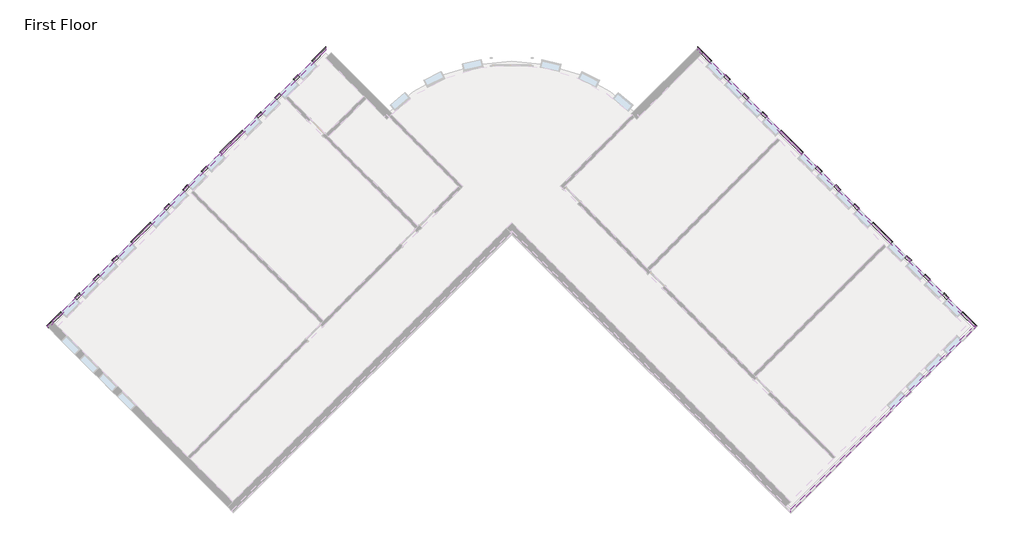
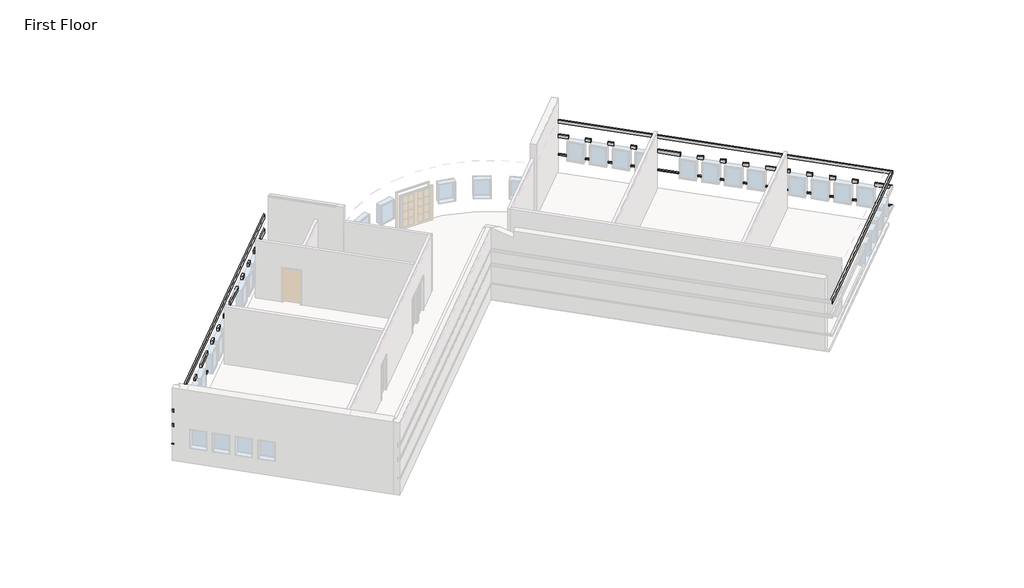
# One storey, part 3 of 3: 7 proxies.
"""IFC4 building model written with IfcOpenShell, lengths in millimetres."""

from ifc_helpers import new_model, si_unit, origin, place, context, project, spatial, faceted_brep, element, save

model = new_model("IFC4")

# Units and contexts
model_context = context("Model", 3, world=origin())
ifc_project = project(units=[si_unit("LENGTHUNIT", "METRE", prefix="MILLI")], contexts=[model_context])

# Site, building, storey
site = spatial("IfcSite", under=ifc_project)
building = spatial("IfcBuilding", under=site)
storey = spatial("IfcBuildingStorey", under=building, Name="First Floor", Elevation=0.0)

# Proxies
placement = place(None, origin())
element("IfcBuildingElementProxy", 1, Name="Wall Sweeps", at=placement, inside=storey, context=model_context, shape_type="Brep", body=[
    faceted_brep([(5753.0175119, 11443.3655905, 1085.85), (5753.0175119, 11573.5793042, 1085.85), (5753.0175119, 11622.9707129, 1041.4), (5753.0175119, 11622.9707129, 1016.0), (5753.0175119, 11443.3655905, 1016.0), (6317.415551, 10878.9675514, 1085.85), (6317.415551, 10878.9675514, 1016.0), (6382.5224079, 10944.0744083, 1016.0), (6407.2181122, 10968.7701126, 1016.0), (6407.2181122, 10968.7701126, 1041.4), (6382.5224079, 10944.0744083, 1085.85), (5937.1127624, 11259.27034, 1085.85), (5937.1127624, 11259.27034, 1016.0)], [[[0, 1, 2, 3, 4]], [[5, 6, 7, 8, 9, 10]], [[1, 0, 11, 5, 10]], [[2, 1, 10, 9]], [[3, 2, 9, 8]], [[4, 3, 8, 7, 6, 12]], [[0, 4, 12, 6, 5, 11]]]),
    faceted_brep([(6963.9939917, 10232.3891107, 1085.85), (7029.1008486, 10297.4959676, 1085.85), (7053.7965529, 10322.1916719, 1041.4), (7053.7965529, 10322.1916719, 1016.0), (7029.1008486, 10297.4959676, 1016.0), (6963.9939917, 10232.3891107, 1016.0), (7179.5201386, 10016.8629638, 1085.85), (7179.5201386, 10016.8629638, 1016.0), (7244.6269955, 10081.9698207, 1016.0), (7269.3226998, 10106.665525, 1016.0), (7269.3226998, 10106.665525, 1041.4), (7244.6269955, 10081.9698207, 1085.85)], [[[0, 1, 2, 3, 4, 5]], [[6, 7, 8, 9, 10, 11]], [[1, 0, 6, 11]], [[2, 1, 11, 10]], [[3, 2, 10, 9]], [[5, 4, 3, 9, 8, 7]], [[0, 5, 7, 6]]]),
    faceted_brep([(7826.0985793, 9370.2845231, 1085.85), (7891.2054362, 9435.39138, 1085.85), (7915.9011405, 9460.0870843, 1041.4), (7915.9011405, 9460.0870843, 1016.0), (7891.2054362, 9435.39138, 1016.0), (7826.0985793, 9370.2845231, 1016.0), (8041.6247262, 9154.7583762, 1085.85), (8041.6247262, 9154.7583762, 1016.0), (8106.7315831, 9219.8652331, 1016.0), (8131.4272874, 9244.5609374, 1016.0), (8131.4272874, 9244.5609374, 1041.4), (8106.7315831, 9219.8652331, 1085.85)], [[[0, 1, 2, 3, 4, 5]], [[6, 7, 8, 9, 10, 11]], [[1, 0, 6, 11]], [[2, 1, 11, 10]], [[3, 2, 10, 9]], [[5, 4, 3, 9, 8, 7]], [[0, 5, 7, 6]]]),
    faceted_brep([(8688.2031669, 8508.1799355, 1085.85), (8753.3100238, 8573.2867923, 1085.85), (8778.0057282, 8597.9824967, 1041.4), (8778.0057282, 8597.9824967, 1016.0), (8753.3100238, 8573.2867923, 1016.0), (8688.2031669, 8508.1799355, 1016.0), (8903.7293139, 8292.6537886, 1085.85), (8903.7293139, 8292.6537886, 1016.0), (8968.8361707, 8357.7606454, 1016.0), (8993.5318751, 8382.4563498, 1016.0), (8993.5318751, 8382.4563498, 1041.4), (8968.8361707, 8357.7606454, 1085.85)], [[[0, 1, 2, 3, 4, 5]], [[6, 7, 8, 9, 10, 11]], [[1, 0, 6, 11]], [[2, 1, 11, 10]], [[3, 2, 10, 9]], [[5, 4, 3, 9, 8, 7]], [[0, 5, 7, 6]]]),
    faceted_brep([(9550.3077546, 7646.0753478, 1085.85), (9615.4146114, 7711.1822047, 1085.85), (9640.1103158, 7735.877909, 1041.4), (9640.1103158, 7735.877909, 1016.0), (9615.4146114, 7711.1822047, 1016.0), (9550.3077546, 7646.0753478, 1016.0), (10574.7639411, 6621.6191613, 1085.85), (10574.7639411, 6621.6191613, 1016.0), (10639.870798, 6686.7260182, 1016.0), (10664.5665023, 6711.4217225, 1016.0), (10664.5665023, 6711.4217225, 1041.4), (10639.870798, 6686.7260182, 1085.85)], [[[0, 1, 2, 3, 4, 5]], [[6, 7, 8, 9, 10, 11]], [[1, 0, 6, 11]], [[2, 1, 11, 10]], [[3, 2, 10, 9]], [[5, 4, 3, 9, 8, 7]], [[0, 5, 7, 6]]]),
    faceted_brep([(11221.3423818, 5975.0407206, 1085.85), (11286.4492387, 6040.1475775, 1085.85), (11311.144943, 6064.8432818, 1041.4), (11311.144943, 6064.8432818, 1016.0), (11286.4492387, 6040.1475775, 1016.0), (11221.3423818, 5975.0407206, 1016.0), (11436.8685287, 5759.5145737, 1085.85), (11436.8685287, 5759.5145737, 1016.0), (11501.9753856, 5824.6214306, 1016.0), (11526.6710899, 5849.3171349, 1016.0), (11526.6710899, 5849.3171349, 1041.4), (11501.9753856, 5824.6214306, 1085.85)], [[[0, 1, 2, 3, 4, 5]], [[6, 7, 8, 9, 10, 11]], [[1, 0, 6, 11]], [[2, 1, 11, 10]], [[3, 2, 10, 9]], [[5, 4, 3, 9, 8, 7]], [[0, 5, 7, 6]]]),
    faceted_brep([(12083.4469694, 5112.936133, 1085.85), (12148.5538263, 5178.0429899, 1085.85), (12173.2495306, 5202.7386942, 1041.4), (12173.2495306, 5202.7386942, 1016.0), (12148.5538263, 5178.0429899, 1016.0), (12083.4469694, 5112.936133, 1016.0), (12298.9731163, 4897.4099861, 1085.85), (12298.9731163, 4897.4099861, 1016.0), (12364.0799732, 4962.516843, 1016.0), (12388.7756775, 4987.2125473, 1016.0), (12388.7756775, 4987.2125473, 1041.4), (12364.0799732, 4962.516843, 1085.85)], [[[0, 1, 2, 3, 4, 5]], [[6, 7, 8, 9, 10, 11]], [[1, 0, 6, 11]], [[2, 1, 11, 10]], [[3, 2, 10, 9]], [[5, 4, 3, 9, 8, 7]], [[0, 5, 7, 6]]]),
    faceted_brep([(12945.551557, 4250.8315454, 1085.85), (13010.6584139, 4315.9384023, 1085.85), (13035.3541182, 4340.6341066, 1041.4), (13035.3541182, 4340.6341066, 1016.0), (13010.6584139, 4315.9384023, 1016.0), (12945.551557, 4250.8315454, 1016.0), (13161.0777039, 4035.3053985, 1085.85), (13161.0777039, 4035.3053985, 1016.0), (13226.1845608, 4100.4122553, 1016.0), (13250.8802652, 4125.1079597, 1016.0), (13250.8802652, 4125.1079597, 1041.4), (13226.1845608, 4100.4122553, 1085.85)], [[[0, 1, 2, 3, 4, 5]], [[6, 7, 8, 9, 10, 11]], [[1, 0, 6, 11]], [[2, 1, 11, 10]], [[3, 2, 10, 9]], [[5, 4, 3, 9, 8, 7]], [[0, 5, 7, 6]]]),
    faceted_brep([(13807.6561447, 3388.7269578, 1085.85), (13872.7630015, 3453.8338146, 1085.85), (13897.4587059, 3478.529519, 1041.4), (13897.4587059, 3478.529519, 1016.0), (13872.7630015, 3453.8338146, 1016.0), (13807.6561447, 3388.7269578, 1016.0), (14723.1708449, 2473.2122576, 1085.85), (14723.1708449, 2473.2122576, 1016.0), (14788.2777017, 2538.3191144, 1016.0), (14812.9734061, 2563.0148188, 1016.0), (14812.9734061, 2563.0148188, 1041.4), (14788.2777017, 2538.3191144, 1085.85)], [[[0, 1, 2, 3, 4, 5]], [[6, 7, 8, 9, 10, 11]], [[1, 0, 6, 11]], [[2, 1, 11, 10]], [[3, 2, 10, 9]], [[5, 4, 3, 9, 8, 7]], [[0, 5, 7, 6]]]),
    faceted_brep([(15369.7492856, 1826.6338168, 1085.85), (15434.8561424, 1891.7406737, 1085.85), (15459.5518468, 1916.4363781, 1041.4), (15459.5518468, 1916.4363781, 1016.0), (15434.8561424, 1891.7406737, 1016.0), (15369.7492856, 1826.6338168, 1016.0), (15585.2754325, 1611.1076699, 1085.85), (15585.2754325, 1611.1076699, 1016.0), (15650.3822894, 1676.2145268, 1016.0), (15675.0779937, 1700.9102311, 1016.0), (15675.0779937, 1700.9102311, 1041.4), (15650.3822894, 1676.2145268, 1085.85)], [[[0, 1, 2, 3, 4, 5]], [[6, 7, 8, 9, 10, 11]], [[1, 0, 6, 11]], [[2, 1, 11, 10]], [[3, 2, 10, 9]], [[5, 4, 3, 9, 8, 7]], [[0, 5, 7, 6]]]),
    faceted_brep([(16231.8538732, 964.5292292, 1085.85), (16296.9607301, 1029.6360861, 1085.85), (16321.6564344, 1054.3317904, 1041.4), (16321.6564344, 1054.3317904, 1016.0), (16296.9607301, 1029.6360861, 1016.0), (16231.8538732, 964.5292292, 1016.0), (16447.3800201, 749.0030823, 1085.85), (16447.3800201, 749.0030823, 1016.0), (16512.486877, 814.1099392, 1016.0), (16537.1825813, 838.8056435, 1016.0), (16537.1825813, 838.8056435, 1041.4), (16512.486877, 814.1099392, 1085.85)], [[[0, 1, 2, 3, 4, 5]], [[6, 7, 8, 9, 10, 11]], [[1, 0, 6, 11]], [[2, 1, 11, 10]], [[3, 2, 10, 9]], [[5, 4, 3, 9, 8, 7]], [[0, 5, 7, 6]]]),
    faceted_brep([(17093.9584608, 102.4246416, 1085.85), (17159.0653177, 167.5314985, 1085.85), (17183.761022, 192.2272028, 1041.4), (17183.761022, 192.2272028, 1016.0), (17159.0653177, 167.5314985, 1016.0), (17093.9584608, 102.4246416, 1016.0), (17309.4846077, -113.1015053, 1085.85), (17309.4846077, -113.1015053, 1016.0), (17374.5914646, -47.9946484, 1016.0), (17399.2871689, -23.2989441, 1016.0), (17399.2871689, -23.2989441, 1041.4), (17374.5914646, -47.9946484, 1085.85)], [[[0, 1, 2, 3, 4, 5]], [[6, 7, 8, 9, 10, 11]], [[1, 0, 6, 11]], [[2, 1, 11, 10]], [[3, 2, 10, 9]], [[5, 4, 3, 9, 8, 7]], [[0, 5, 7, 6]]]),
    faceted_brep([(17956.0630484, -759.679946, 1085.85), (18021.1699053, -694.5730891, 1085.85), (18045.8656096, -669.8773848, 1041.4), (18045.8656096, -669.8773848, 1016.0), (18021.1699053, -694.5730891, 1016.0), (17956.0630484, -759.679946, 1016.0), (18554.3726125, -1357.9895101, 1085.85), (18554.3726125, -1357.9895101, 1016.0), (18733.9777349, -1357.9895101, 1016.0), (18733.9777349, -1357.9895101, 1041.4), (18684.5863263, -1357.9895101, 1085.85)], [[[0, 1, 2, 3, 4, 5]], [[6, 7, 8, 9, 10]], [[1, 0, 6, 10]], [[2, 1, 10, 9]], [[3, 2, 9, 8]], [[5, 4, 3, 8, 7]], [[0, 5, 7, 6]]]),
])
element("IfcBuildingElementProxy", 2, Name="Wall Sweeps", at=placement, inside=storey, context=model_context, shape_type="Brep", body=[
    faceted_brep([(5753.0175119, 11573.5793042, 2336.8), (5753.0175119, 11573.5793042, 2133.6), (5753.0175119, 11443.3655905, 2133.6), (5753.0175119, 11443.3655905, 2336.8), (6382.5224079, 10944.0744083, 2336.8), (6317.415551, 10878.9675514, 2336.8), (6317.415551, 10878.9675514, 2133.6), (6382.5224079, 10944.0744083, 2133.6), (6002.2196193, 11324.3771969, 2336.8), (6002.2196193, 11324.3771969, 2133.6), (5937.1127624, 11259.27034, 2133.6), (5937.1127624, 11259.27034, 2336.8)], [[[0, 1, 2, 3]], [[4, 5, 6, 7]], [[1, 0, 8, 4, 7, 9]], [[2, 1, 9, 7, 6, 10]], [[3, 2, 10, 6, 5, 11]], [[0, 3, 11, 5, 4, 8]]]),
    faceted_brep([(7029.1008486, 10297.4959676, 2336.8), (7029.1008486, 10297.4959676, 2133.6), (6963.9939917, 10232.3891107, 2133.6), (6963.9939917, 10232.3891107, 2336.8), (7244.6269955, 10081.9698207, 2336.8), (7179.5201386, 10016.8629638, 2336.8), (7179.5201386, 10016.8629638, 2133.6), (7244.6269955, 10081.9698207, 2133.6)], [[[0, 1, 2, 3]], [[4, 5, 6, 7]], [[1, 0, 4, 7]], [[2, 1, 7, 6]], [[3, 2, 6, 5]], [[0, 3, 5, 4]]]),
    faceted_brep([(7891.2054362, 9435.39138, 2336.8), (7891.2054362, 9435.39138, 2133.6), (7826.0985793, 9370.2845231, 2133.6), (7826.0985793, 9370.2845231, 2336.8), (8106.7315831, 9219.8652331, 2336.8), (8041.6247262, 9154.7583762, 2336.8), (8041.6247262, 9154.7583762, 2133.6), (8106.7315831, 9219.8652331, 2133.6)], [[[0, 1, 2, 3]], [[4, 5, 6, 7]], [[1, 0, 4, 7]], [[2, 1, 7, 6]], [[3, 2, 6, 5]], [[0, 3, 5, 4]]]),
    faceted_brep([(8753.3100238, 8573.2867923, 2336.8), (8753.3100238, 8573.2867923, 2133.6), (8688.2031669, 8508.1799355, 2133.6), (8688.2031669, 8508.1799355, 2336.8), (8968.8361707, 8357.7606454, 2336.8), (8903.7293139, 8292.6537886, 2336.8), (8903.7293139, 8292.6537886, 2133.6), (8968.8361707, 8357.7606454, 2133.6)], [[[0, 1, 2, 3]], [[4, 5, 6, 7]], [[1, 0, 4, 7]], [[2, 1, 7, 6]], [[3, 2, 6, 5]], [[0, 3, 5, 4]]]),
    faceted_brep([(9615.4146114, 7711.1822047, 2336.8), (9615.4146114, 7711.1822047, 2133.6), (9550.3077546, 7646.0753478, 2133.6), (9550.3077546, 7646.0753478, 2336.8), (10639.870798, 6686.7260182, 2336.8), (10574.7639411, 6621.6191613, 2336.8), (10574.7639411, 6621.6191613, 2133.6), (10639.870798, 6686.7260182, 2133.6)], [[[0, 1, 2, 3]], [[4, 5, 6, 7]], [[1, 0, 4, 7]], [[2, 1, 7, 6]], [[3, 2, 6, 5]], [[0, 3, 5, 4]]]),
    faceted_brep([(11286.4492387, 6040.1475775, 2336.8), (11286.4492387, 6040.1475775, 2133.6), (11221.3423818, 5975.0407206, 2133.6), (11221.3423818, 5975.0407206, 2336.8), (11501.9753856, 5824.6214306, 2336.8), (11436.8685287, 5759.5145737, 2336.8), (11436.8685287, 5759.5145737, 2133.6), (11501.9753856, 5824.6214306, 2133.6)], [[[0, 1, 2, 3]], [[4, 5, 6, 7]], [[1, 0, 4, 7]], [[2, 1, 7, 6]], [[3, 2, 6, 5]], [[0, 3, 5, 4]]]),
    faceted_brep([(12148.5538263, 5178.0429899, 2336.8), (12148.5538263, 5178.0429899, 2133.6), (12083.4469694, 5112.936133, 2133.6), (12083.4469694, 5112.936133, 2336.8), (12364.0799732, 4962.516843, 2336.8), (12298.9731163, 4897.4099861, 2336.8), (12298.9731163, 4897.4099861, 2133.6), (12364.0799732, 4962.516843, 2133.6)], [[[0, 1, 2, 3]], [[4, 5, 6, 7]], [[1, 0, 4, 7]], [[2, 1, 7, 6]], [[3, 2, 6, 5]], [[0, 3, 5, 4]]]),
    faceted_brep([(13010.6584139, 4315.9384023, 2336.8), (13010.6584139, 4315.9384023, 2133.6), (12945.551557, 4250.8315454, 2133.6), (12945.551557, 4250.8315454, 2336.8), (13226.1845608, 4100.4122553, 2336.8), (13161.0777039, 4035.3053985, 2336.8), (13161.0777039, 4035.3053985, 2133.6), (13226.1845608, 4100.4122553, 2133.6)], [[[0, 1, 2, 3]], [[4, 5, 6, 7]], [[1, 0, 4, 7]], [[2, 1, 7, 6]], [[3, 2, 6, 5]], [[0, 3, 5, 4]]]),
    faceted_brep([(13872.7630015, 3453.8338146, 2336.8), (13872.7630015, 3453.8338146, 2133.6), (13807.6561447, 3388.7269578, 2133.6), (13807.6561447, 3388.7269578, 2336.8), (14788.2777017, 2538.3191144, 2336.8), (14723.1708449, 2473.2122576, 2336.8), (14723.1708449, 2473.2122576, 2133.6), (14788.2777017, 2538.3191144, 2133.6)], [[[0, 1, 2, 3]], [[4, 5, 6, 7]], [[1, 0, 4, 7]], [[2, 1, 7, 6]], [[3, 2, 6, 5]], [[0, 3, 5, 4]]]),
    faceted_brep([(15434.8561424, 1891.7406737, 2336.8), (15434.8561424, 1891.7406737, 2133.6), (15369.7492856, 1826.6338168, 2133.6), (15369.7492856, 1826.6338168, 2336.8), (15650.3822894, 1676.2145268, 2336.8), (15585.2754325, 1611.1076699, 2336.8), (15585.2754325, 1611.1076699, 2133.6), (15650.3822894, 1676.2145268, 2133.6)], [[[0, 1, 2, 3]], [[4, 5, 6, 7]], [[1, 0, 4, 7]], [[2, 1, 7, 6]], [[3, 2, 6, 5]], [[0, 3, 5, 4]]]),
    faceted_brep([(16296.9607301, 1029.6360861, 2336.8), (16296.9607301, 1029.6360861, 2133.6), (16231.8538732, 964.5292292, 2133.6), (16231.8538732, 964.5292292, 2336.8), (16512.486877, 814.1099392, 2336.8), (16447.3800201, 749.0030823, 2336.8), (16447.3800201, 749.0030823, 2133.6), (16512.486877, 814.1099392, 2133.6)], [[[0, 1, 2, 3]], [[4, 5, 6, 7]], [[1, 0, 4, 7]], [[2, 1, 7, 6]], [[3, 2, 6, 5]], [[0, 3, 5, 4]]]),
    faceted_brep([(17159.0653177, 167.5314985, 2336.8), (17159.0653177, 167.5314985, 2133.6), (17093.9584608, 102.4246416, 2133.6), (17093.9584608, 102.4246416, 2336.8), (17374.5914646, -47.9946484, 2336.8), (17309.4846077, -113.1015053, 2336.8), (17309.4846077, -113.1015053, 2133.6), (17374.5914646, -47.9946484, 2133.6)], [[[0, 1, 2, 3]], [[4, 5, 6, 7]], [[1, 0, 4, 7]], [[2, 1, 7, 6]], [[3, 2, 6, 5]], [[0, 3, 5, 4]]]),
    faceted_brep([(18021.1699053, -694.5730891, 2336.8), (18021.1699053, -694.5730891, 2133.6), (17956.0630484, -759.679946, 2133.6), (17956.0630484, -759.679946, 2336.8), (18684.5863263, -1357.9895101, 2336.8), (18554.3726125, -1357.9895101, 2336.8), (18554.3726125, -1357.9895101, 2133.6), (18684.5863263, -1357.9895101, 2133.6)], [[[0, 1, 2, 3]], [[4, 5, 6, 7]], [[1, 0, 4, 7]], [[2, 1, 7, 6]], [[3, 2, 6, 5]], [[0, 3, 5, 4]]]),
])
element("IfcBuildingElementProxy", 3, Name="Wall Sweeps", at=placement, inside=storey, context=model_context, shape_type="Brep", body=[
    faceted_brep([(5753.0175119, 11573.5793042, 3251.2), (5753.0175119, 11573.5793042, 3048.0), (5753.0175119, 11443.3655905, 3048.0), (5753.0175119, 11443.3655905, 3251.2), (18684.5863263, -1357.9895101, 3251.2), (18554.3726125, -1357.9895101, 3251.2), (18554.3726125, -1357.9895101, 3048.0), (18684.5863263, -1357.9895101, 3048.0), (6002.2196193, 11324.3771969, 3251.2), (6002.2196193, 11324.3771969, 3048.0), (5937.1127624, 11259.27034, 3048.0), (5937.1127624, 11259.27034, 3251.2)], [[[0, 1, 2, 3]], [[4, 5, 6, 7]], [[1, 0, 8, 4, 7, 9]], [[2, 1, 9, 7, 6, 10]], [[3, 2, 10, 6, 5, 11]], [[0, 3, 11, 5, 4, 8]]]),
])
element("IfcBuildingElementProxy", 4, Name="Wall Sweeps", at=placement, inside=storey, context=model_context, shape_type="Brep", body=[
    faceted_brep([(18684.5863263, -1357.9895101, 3251.2), (18684.5863263, -1357.9895101, 3048.0), (18554.3726125, -1357.9895101, 3048.0), (18554.3726125, -1357.9895101, 3251.2), (10063.54045, -9979.0353863, 3251.2), (10063.54045, -9848.8216726, 3251.2), (10063.54045, -9848.8216726, 3048.0), (10063.54045, -9979.0353863, 3048.0), (18435.3842189, -1607.1916175, 3251.2), (18435.3842189, -1607.1916175, 3048.0), (18370.277362, -1542.0847606, 3048.0), (18370.277362, -1542.0847606, 3251.2)], [[[0, 1, 2, 3]], [[4, 5, 6, 7]], [[1, 0, 8, 4, 7, 9]], [[2, 1, 9, 7, 6, 10]], [[3, 2, 10, 6, 5, 11]], [[0, 3, 11, 5, 4, 8]]]),
])
element("IfcBuildingElementProxy", 5, Name="Wall Sweeps", at=placement, inside=storey, context=model_context, shape_type="Brep", body=[
    faceted_brep([(-24355.536198, -1423.096367, 1085.85), (-24420.6430549, -1357.9895101, 1085.85), (-24445.3387592, -1333.2938058, 1041.4), (-24445.3387592, -1333.2938058, 1016.0), (-24355.536198, -1423.096367, 1016.0), (-23692.119777, -759.679946, 1085.85), (-23692.119777, -759.679946, 1016.0), (-23757.2266339, -694.5730891, 1016.0), (-23781.9223383, -669.8773848, 1016.0), (-23781.9223383, -669.8773848, 1041.4), (-23757.2266339, -694.5730891, 1085.85), (-24106.3340906, -1173.8942596, 1085.85), (-24106.3340906, -1173.8942596, 1016.0)], [[[0, 1, 2, 3, 4]], [[5, 6, 7, 8, 9, 10]], [[1, 0, 11, 5, 10]], [[2, 1, 10, 9]], [[3, 2, 9, 8]], [[4, 3, 8, 7, 6, 12]], [[0, 4, 12, 6, 5, 11]]]),
    faceted_brep([(-23045.5413363, -113.1015053, 1085.85), (-23110.6481932, -47.9946484, 1085.85), (-23135.3438975, -23.2989441, 1041.4), (-23135.3438975, -23.2989441, 1016.0), (-23110.6481932, -47.9946484, 1016.0), (-23045.5413363, -113.1015053, 1016.0), (-22830.0151894, 102.4246416, 1085.85), (-22830.0151894, 102.4246416, 1016.0), (-22895.1220463, 167.5314985, 1016.0), (-22919.8177506, 192.2272028, 1016.0), (-22919.8177506, 192.2272028, 1041.4), (-22895.1220463, 167.5314985, 1085.85)], [[[0, 1, 2, 3, 4, 5]], [[6, 7, 8, 9, 10, 11]], [[1, 0, 6, 11]], [[2, 1, 11, 10]], [[3, 2, 10, 9]], [[5, 4, 3, 9, 8, 7]], [[0, 5, 7, 6]]]),
    faceted_brep([(-22183.4367487, 749.0030823, 1085.85), (-22248.5436056, 814.1099392, 1085.85), (-22273.2393099, 838.8056435, 1041.4), (-22273.2393099, 838.8056435, 1016.0), (-22248.5436056, 814.1099392, 1016.0), (-22183.4367487, 749.0030823, 1016.0), (-21967.9106018, 964.5292292, 1085.85), (-21967.9106018, 964.5292292, 1016.0), (-22033.0174587, 1029.6360861, 1016.0), (-22057.713163, 1054.3317904, 1016.0), (-22057.713163, 1054.3317904, 1041.4), (-22033.0174587, 1029.6360861, 1085.85)], [[[0, 1, 2, 3, 4, 5]], [[6, 7, 8, 9, 10, 11]], [[1, 0, 6, 11]], [[2, 1, 11, 10]], [[3, 2, 10, 9]], [[5, 4, 3, 9, 8, 7]], [[0, 5, 7, 6]]]),
    faceted_brep([(-21321.3321611, 1611.1076699, 1085.85), (-21386.439018, 1676.2145268, 1085.85), (-21411.1347223, 1700.9102311, 1041.4), (-21411.1347223, 1700.9102311, 1016.0), (-21386.439018, 1676.2145268, 1016.0), (-21321.3321611, 1611.1076699, 1016.0), (-21105.8060142, 1826.6338168, 1085.85), (-21105.8060142, 1826.6338168, 1016.0), (-21170.9128711, 1891.7406737, 1016.0), (-21195.6085754, 1916.4363781, 1016.0), (-21195.6085754, 1916.4363781, 1041.4), (-21170.9128711, 1891.7406737, 1085.85)], [[[0, 1, 2, 3, 4, 5]], [[6, 7, 8, 9, 10, 11]], [[1, 0, 6, 11]], [[2, 1, 11, 10]], [[3, 2, 10, 9]], [[5, 4, 3, 9, 8, 7]], [[0, 5, 7, 6]]]),
    faceted_brep([(-20459.2275735, 2473.2122576, 1085.85), (-20524.3344303, 2538.3191144, 1085.85), (-20549.0301347, 2563.0148188, 1041.4), (-20549.0301347, 2563.0148188, 1016.0), (-20524.3344303, 2538.3191144, 1016.0), (-20459.2275735, 2473.2122576, 1016.0), (-19543.7128733, 3388.7269578, 1085.85), (-19543.7128733, 3388.7269578, 1016.0), (-19608.8197301, 3453.8338146, 1016.0), (-19633.5154345, 3478.529519, 1016.0), (-19633.5154345, 3478.529519, 1041.4), (-19608.8197301, 3453.8338146, 1085.85)], [[[0, 1, 2, 3, 4, 5]], [[6, 7, 8, 9, 10, 11]], [[1, 0, 6, 11]], [[2, 1, 11, 10]], [[3, 2, 10, 9]], [[5, 4, 3, 9, 8, 7]], [[0, 5, 7, 6]]]),
    faceted_brep([(-18897.1344326, 4035.3053985, 1085.85), (-18962.2412894, 4100.4122553, 1085.85), (-18986.9369938, 4125.1079597, 1041.4), (-18986.9369938, 4125.1079597, 1016.0), (-18962.2412894, 4100.4122553, 1016.0), (-18897.1344326, 4035.3053985, 1016.0), (-18681.6082856, 4250.8315454, 1085.85), (-18681.6082856, 4250.8315454, 1016.0), (-18746.7151425, 4315.9384023, 1016.0), (-18771.4108469, 4340.6341066, 1016.0), (-18771.4108469, 4340.6341066, 1041.4), (-18746.7151425, 4315.9384023, 1085.85)], [[[0, 1, 2, 3, 4, 5]], [[6, 7, 8, 9, 10, 11]], [[1, 0, 6, 11]], [[2, 1, 11, 10]], [[3, 2, 10, 9]], [[5, 4, 3, 9, 8, 7]], [[0, 5, 7, 6]]]),
    faceted_brep([(-18035.0298449, 4897.4099861, 1085.85), (-18100.1367018, 4962.516843, 1085.85), (-18124.8324061, 4987.2125473, 1041.4), (-18124.8324061, 4987.2125473, 1016.0), (-18100.1367018, 4962.516843, 1016.0), (-18035.0298449, 4897.4099861, 1016.0), (-17819.503698, 5112.936133, 1085.85), (-17819.503698, 5112.936133, 1016.0), (-17884.6105549, 5178.0429899, 1016.0), (-17909.3062592, 5202.7386942, 1016.0), (-17909.3062592, 5202.7386942, 1041.4), (-17884.6105549, 5178.0429899, 1085.85)], [[[0, 1, 2, 3, 4, 5]], [[6, 7, 8, 9, 10, 11]], [[1, 0, 6, 11]], [[2, 1, 11, 10]], [[3, 2, 10, 9]], [[5, 4, 3, 9, 8, 7]], [[0, 5, 7, 6]]]),
    faceted_brep([(-17172.9252573, 5759.5145737, 1085.85), (-17238.0321142, 5824.6214306, 1085.85), (-17262.7278185, 5849.3171349, 1041.4), (-17262.7278185, 5849.3171349, 1016.0), (-17238.0321142, 5824.6214306, 1016.0), (-17172.9252573, 5759.5145737, 1016.0), (-16957.3991104, 5975.0407206, 1085.85), (-16957.3991104, 5975.0407206, 1016.0), (-17022.5059673, 6040.1475775, 1016.0), (-17047.2016716, 6064.8432818, 1016.0), (-17047.2016716, 6064.8432818, 1041.4), (-17022.5059673, 6040.1475775, 1085.85)], [[[0, 1, 2, 3, 4, 5]], [[6, 7, 8, 9, 10, 11]], [[1, 0, 6, 11]], [[2, 1, 11, 10]], [[3, 2, 10, 9]], [[5, 4, 3, 9, 8, 7]], [[0, 5, 7, 6]]]),
    faceted_brep([(-16310.8206697, 6621.6191613, 1085.85), (-16375.9275266, 6686.7260182, 1085.85), (-16400.6232309, 6711.4217225, 1041.4), (-16400.6232309, 6711.4217225, 1016.0), (-16375.9275266, 6686.7260182, 1016.0), (-16310.8206697, 6621.6191613, 1016.0), (-15286.3644832, 7646.0753478, 1085.85), (-15286.3644832, 7646.0753478, 1016.0), (-15351.4713401, 7711.1822047, 1016.0), (-15376.1670444, 7735.877909, 1016.0), (-15376.1670444, 7735.877909, 1041.4), (-15351.4713401, 7711.1822047, 1085.85)], [[[0, 1, 2, 3, 4, 5]], [[6, 7, 8, 9, 10, 11]], [[1, 0, 6, 11]], [[2, 1, 11, 10]], [[3, 2, 10, 9]], [[5, 4, 3, 9, 8, 7]], [[0, 5, 7, 6]]]),
    faceted_brep([(-14639.7860425, 8292.6537886, 1085.85), (-14704.8928993, 8357.7606454, 1085.85), (-14729.5886037, 8382.4563498, 1041.4), (-14729.5886037, 8382.4563498, 1016.0), (-14704.8928993, 8357.7606454, 1016.0), (-14639.7860425, 8292.6537886, 1016.0), (-14424.2598956, 8508.1799355, 1085.85), (-14424.2598956, 8508.1799355, 1016.0), (-14489.3667524, 8573.2867923, 1016.0), (-14514.0624568, 8597.9824967, 1016.0), (-14514.0624568, 8597.9824967, 1041.4), (-14489.3667524, 8573.2867923, 1085.85)], [[[0, 1, 2, 3, 4, 5]], [[6, 7, 8, 9, 10, 11]], [[1, 0, 6, 11]], [[2, 1, 11, 10]], [[3, 2, 10, 9]], [[5, 4, 3, 9, 8, 7]], [[0, 5, 7, 6]]]),
    faceted_brep([(-13777.6814548, 9154.7583762, 1085.85), (-13842.7883117, 9219.8652331, 1085.85), (-13867.4840161, 9244.5609374, 1041.4), (-13867.4840161, 9244.5609374, 1016.0), (-13842.7883117, 9219.8652331, 1016.0), (-13777.6814548, 9154.7583762, 1016.0), (-13562.1553079, 9370.2845231, 1085.85), (-13562.1553079, 9370.2845231, 1016.0), (-13627.2621648, 9435.39138, 1016.0), (-13651.9578691, 9460.0870843, 1016.0), (-13651.9578691, 9460.0870843, 1041.4), (-13627.2621648, 9435.39138, 1085.85)], [[[0, 1, 2, 3, 4, 5]], [[6, 7, 8, 9, 10, 11]], [[1, 0, 6, 11]], [[2, 1, 11, 10]], [[3, 2, 10, 9]], [[5, 4, 3, 9, 8, 7]], [[0, 5, 7, 6]]]),
    faceted_brep([(-12915.5768672, 10016.8629638, 1085.85), (-12980.6837241, 10081.9698207, 1085.85), (-13005.3794284, 10106.665525, 1041.4), (-13005.3794284, 10106.665525, 1016.0), (-12980.6837241, 10081.9698207, 1016.0), (-12915.5768672, 10016.8629638, 1016.0), (-12700.0507203, 10232.3891107, 1085.85), (-12700.0507203, 10232.3891107, 1016.0), (-12765.1575772, 10297.4959676, 1016.0), (-12789.8532815, 10322.1916719, 1016.0), (-12789.8532815, 10322.1916719, 1041.4), (-12765.1575772, 10297.4959676, 1085.85)], [[[0, 1, 2, 3, 4, 5]], [[6, 7, 8, 9, 10, 11]], [[1, 0, 6, 11]], [[2, 1, 11, 10]], [[3, 2, 10, 9]], [[5, 4, 3, 9, 8, 7]], [[0, 5, 7, 6]]]),
    faceted_brep([(-12053.4722796, 10878.9675514, 1085.85), (-12118.5791365, 10944.0744083, 1085.85), (-12143.2748408, 10968.7701126, 1041.4), (-12143.2748408, 10968.7701126, 1016.0), (-12118.5791365, 10944.0744083, 1016.0), (-12053.4722796, 10878.9675514, 1016.0), (-11489.0742405, 11443.3655905, 1085.85), (-11489.0742405, 11443.3655905, 1016.0), (-11489.0742405, 11622.9707129, 1016.0), (-11489.0742405, 11622.9707129, 1041.4), (-11489.0742405, 11573.5793042, 1085.85)], [[[0, 1, 2, 3, 4, 5]], [[6, 7, 8, 9, 10]], [[1, 0, 6, 10]], [[2, 1, 10, 9]], [[3, 2, 9, 8]], [[5, 4, 3, 8, 7]], [[0, 5, 7, 6]]]),
])
element("IfcBuildingElementProxy", 6, Name="Wall Sweeps", at=placement, inside=storey, context=model_context, shape_type="Brep", body=[
    faceted_brep([(-24420.6430549, -1357.9895101, 2336.8), (-24420.6430549, -1357.9895101, 2133.6), (-24355.536198, -1423.096367, 2133.6), (-24355.536198, -1423.096367, 2336.8), (-23757.2266339, -694.5730891, 2336.8), (-23692.119777, -759.679946, 2336.8), (-23692.119777, -759.679946, 2133.6), (-23757.2266339, -694.5730891, 2133.6), (-24171.4409475, -1108.7874027, 2336.8), (-24171.4409475, -1108.7874027, 2133.6), (-24106.3340906, -1173.8942596, 2133.6), (-24106.3340906, -1173.8942596, 2336.8)], [[[0, 1, 2, 3]], [[4, 5, 6, 7]], [[1, 0, 8, 4, 7, 9]], [[2, 1, 9, 7, 6, 10]], [[3, 2, 10, 6, 5, 11]], [[0, 3, 11, 5, 4, 8]]]),
    faceted_brep([(-23110.6481932, -47.9946484, 2336.8), (-23110.6481932, -47.9946484, 2133.6), (-23045.5413363, -113.1015053, 2133.6), (-23045.5413363, -113.1015053, 2336.8), (-22895.1220463, 167.5314985, 2336.8), (-22830.0151894, 102.4246416, 2336.8), (-22830.0151894, 102.4246416, 2133.6), (-22895.1220463, 167.5314985, 2133.6)], [[[0, 1, 2, 3]], [[4, 5, 6, 7]], [[1, 0, 4, 7]], [[2, 1, 7, 6]], [[3, 2, 6, 5]], [[0, 3, 5, 4]]]),
    faceted_brep([(-22248.5436056, 814.1099392, 2336.8), (-22248.5436056, 814.1099392, 2133.6), (-22183.4367487, 749.0030823, 2133.6), (-22183.4367487, 749.0030823, 2336.8), (-22033.0174587, 1029.6360861, 2336.8), (-21967.9106018, 964.5292292, 2336.8), (-21967.9106018, 964.5292292, 2133.6), (-22033.0174587, 1029.6360861, 2133.6)], [[[0, 1, 2, 3]], [[4, 5, 6, 7]], [[1, 0, 4, 7]], [[2, 1, 7, 6]], [[3, 2, 6, 5]], [[0, 3, 5, 4]]]),
    faceted_brep([(-21386.439018, 1676.2145268, 2336.8), (-21386.439018, 1676.2145268, 2133.6), (-21321.3321611, 1611.1076699, 2133.6), (-21321.3321611, 1611.1076699, 2336.8), (-21170.9128711, 1891.7406737, 2336.8), (-21105.8060142, 1826.6338168, 2336.8), (-21105.8060142, 1826.6338168, 2133.6), (-21170.9128711, 1891.7406737, 2133.6)], [[[0, 1, 2, 3]], [[4, 5, 6, 7]], [[1, 0, 4, 7]], [[2, 1, 7, 6]], [[3, 2, 6, 5]], [[0, 3, 5, 4]]]),
    faceted_brep([(-20524.3344303, 2538.3191144, 2336.8), (-20524.3344303, 2538.3191144, 2133.6), (-20459.2275735, 2473.2122576, 2133.6), (-20459.2275735, 2473.2122576, 2336.8), (-19608.8197301, 3453.8338146, 2336.8), (-19543.7128733, 3388.7269578, 2336.8), (-19543.7128733, 3388.7269578, 2133.6), (-19608.8197301, 3453.8338146, 2133.6)], [[[0, 1, 2, 3]], [[4, 5, 6, 7]], [[1, 0, 4, 7]], [[2, 1, 7, 6]], [[3, 2, 6, 5]], [[0, 3, 5, 4]]]),
    faceted_brep([(-18962.2412894, 4100.4122553, 2336.8), (-18962.2412894, 4100.4122553, 2133.6), (-18897.1344326, 4035.3053985, 2133.6), (-18897.1344326, 4035.3053985, 2336.8), (-18746.7151425, 4315.9384023, 2336.8), (-18681.6082856, 4250.8315454, 2336.8), (-18681.6082856, 4250.8315454, 2133.6), (-18746.7151425, 4315.9384023, 2133.6)], [[[0, 1, 2, 3]], [[4, 5, 6, 7]], [[1, 0, 4, 7]], [[2, 1, 7, 6]], [[3, 2, 6, 5]], [[0, 3, 5, 4]]]),
    faceted_brep([(-18100.1367018, 4962.516843, 2336.8), (-18100.1367018, 4962.516843, 2133.6), (-18035.0298449, 4897.4099861, 2133.6), (-18035.0298449, 4897.4099861, 2336.8), (-17884.6105549, 5178.0429899, 2336.8), (-17819.503698, 5112.936133, 2336.8), (-17819.503698, 5112.936133, 2133.6), (-17884.6105549, 5178.0429899, 2133.6)], [[[0, 1, 2, 3]], [[4, 5, 6, 7]], [[1, 0, 4, 7]], [[2, 1, 7, 6]], [[3, 2, 6, 5]], [[0, 3, 5, 4]]]),
    faceted_brep([(-17238.0321142, 5824.6214306, 2336.8), (-17238.0321142, 5824.6214306, 2133.6), (-17172.9252573, 5759.5145737, 2133.6), (-17172.9252573, 5759.5145737, 2336.8), (-17022.5059673, 6040.1475775, 2336.8), (-16957.3991104, 5975.0407206, 2336.8), (-16957.3991104, 5975.0407206, 2133.6), (-17022.5059673, 6040.1475775, 2133.6)], [[[0, 1, 2, 3]], [[4, 5, 6, 7]], [[1, 0, 4, 7]], [[2, 1, 7, 6]], [[3, 2, 6, 5]], [[0, 3, 5, 4]]]),
    faceted_brep([(-16375.9275266, 6686.7260182, 2336.8), (-16375.9275266, 6686.7260182, 2133.6), (-16310.8206697, 6621.6191613, 2133.6), (-16310.8206697, 6621.6191613, 2336.8), (-15351.4713401, 7711.1822047, 2336.8), (-15286.3644832, 7646.0753478, 2336.8), (-15286.3644832, 7646.0753478, 2133.6), (-15351.4713401, 7711.1822047, 2133.6)], [[[0, 1, 2, 3]], [[4, 5, 6, 7]], [[1, 0, 4, 7]], [[2, 1, 7, 6]], [[3, 2, 6, 5]], [[0, 3, 5, 4]]]),
    faceted_brep([(-14704.8928993, 8357.7606454, 2336.8), (-14704.8928993, 8357.7606454, 2133.6), (-14639.7860425, 8292.6537886, 2133.6), (-14639.7860425, 8292.6537886, 2336.8), (-14489.3667524, 8573.2867923, 2336.8), (-14424.2598956, 8508.1799355, 2336.8), (-14424.2598956, 8508.1799355, 2133.6), (-14489.3667524, 8573.2867923, 2133.6)], [[[0, 1, 2, 3]], [[4, 5, 6, 7]], [[1, 0, 4, 7]], [[2, 1, 7, 6]], [[3, 2, 6, 5]], [[0, 3, 5, 4]]]),
    faceted_brep([(-13842.7883117, 9219.8652331, 2336.8), (-13842.7883117, 9219.8652331, 2133.6), (-13777.6814548, 9154.7583762, 2133.6), (-13777.6814548, 9154.7583762, 2336.8), (-13627.2621648, 9435.39138, 2336.8), (-13562.1553079, 9370.2845231, 2336.8), (-13562.1553079, 9370.2845231, 2133.6), (-13627.2621648, 9435.39138, 2133.6)], [[[0, 1, 2, 3]], [[4, 5, 6, 7]], [[1, 0, 4, 7]], [[2, 1, 7, 6]], [[3, 2, 6, 5]], [[0, 3, 5, 4]]]),
    faceted_brep([(-12980.6837241, 10081.9698207, 2336.8), (-12980.6837241, 10081.9698207, 2133.6), (-12915.5768672, 10016.8629638, 2133.6), (-12915.5768672, 10016.8629638, 2336.8), (-12765.1575772, 10297.4959676, 2336.8), (-12700.0507203, 10232.3891107, 2336.8), (-12700.0507203, 10232.3891107, 2133.6), (-12765.1575772, 10297.4959676, 2133.6)], [[[0, 1, 2, 3]], [[4, 5, 6, 7]], [[1, 0, 4, 7]], [[2, 1, 7, 6]], [[3, 2, 6, 5]], [[0, 3, 5, 4]]]),
    faceted_brep([(-12118.5791365, 10944.0744083, 2336.8), (-12118.5791365, 10944.0744083, 2133.6), (-12053.4722796, 10878.9675514, 2133.6), (-12053.4722796, 10878.9675514, 2336.8), (-11489.0742405, 11573.5793042, 2336.8), (-11489.0742405, 11443.3655905, 2336.8), (-11489.0742405, 11443.3655905, 2133.6), (-11489.0742405, 11573.5793042, 2133.6)], [[[0, 1, 2, 3]], [[4, 5, 6, 7]], [[1, 0, 4, 7]], [[2, 1, 7, 6]], [[3, 2, 6, 5]], [[0, 3, 5, 4]]]),
])
element("IfcBuildingElementProxy", 7, Name="Wall Sweeps", at=placement, inside=storey, context=model_context, shape_type="Brep", body=[
    faceted_brep([(-24420.6430549, -1357.9895101, 3251.2), (-24420.6430549, -1357.9895101, 3048.0), (-24355.536198, -1423.096367, 3048.0), (-24355.536198, -1423.096367, 3251.2), (-11489.0742405, 11573.5793042, 3251.2), (-11489.0742405, 11443.3655905, 3251.2), (-11489.0742405, 11443.3655905, 3048.0), (-11489.0742405, 11573.5793042, 3048.0), (-24171.4409475, -1108.7874027, 3251.2), (-24171.4409475, -1108.7874027, 3048.0), (-24106.3340906, -1173.8942596, 3048.0), (-24106.3340906, -1173.8942596, 3251.2)], [[[0, 1, 2, 3]], [[4, 5, 6, 7]], [[1, 0, 8, 4, 7, 9]], [[2, 1, 9, 7, 6, 10]], [[3, 2, 10, 6, 5, 11]], [[0, 3, 11, 5, 4, 8]]]),
])

save(model, "model.ifc")
